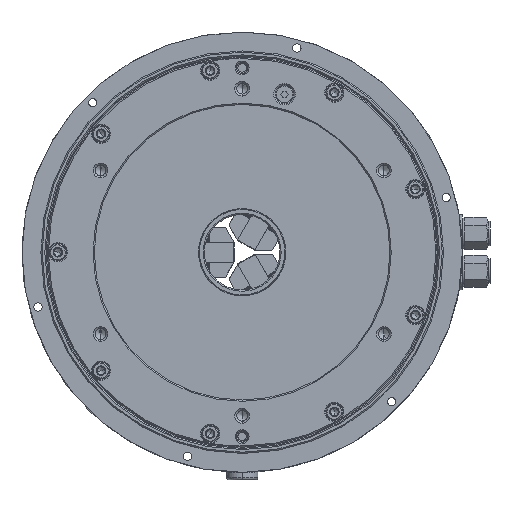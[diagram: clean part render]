
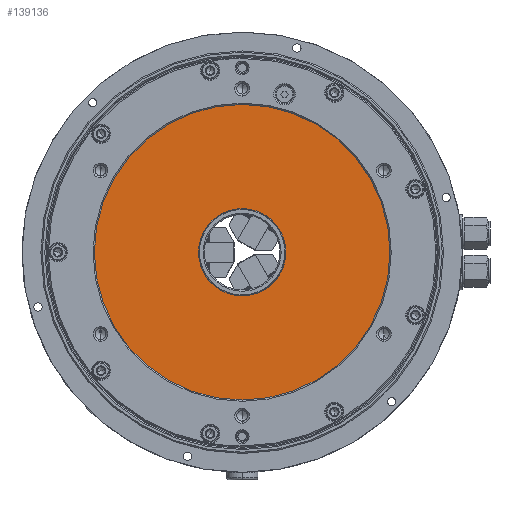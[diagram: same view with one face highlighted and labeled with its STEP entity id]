
A CAD part, left-side view. The second image highlights one B-rep face of the part: STEP entity #139136.
In plain terms, the highlighted planar face has unit normal (-1, 0, 0).
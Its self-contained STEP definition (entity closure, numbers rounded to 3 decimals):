
#7431 = CARTESIAN_POINT ( 'NONE',  ( -6., 34.7, 0. ) ) ;
#8942 = PLANE ( 'NONE',  #26800 ) ;
#9269 = EDGE_CURVE ( 'NONE', #64926, #26792, #78867, .T. ) ;
#14400 = CARTESIAN_POINT ( 'NONE',  ( -6., 0., 0. ) ) ;
#18433 = ORIENTED_EDGE ( 'NONE', *, *, #9269, .T. ) ;
#19340 = CIRCLE ( 'NONE', #53818, 34.7 ) ;
#26792 = VERTEX_POINT ( 'NONE', #140786 ) ;
#26800 = AXIS2_PLACEMENT_3D ( 'NONE', #7431, #54489, #55238 ) ;
#31544 = DIRECTION ( 'NONE',  ( 0., 0., 1. ) ) ;
#39322 = EDGE_CURVE ( 'NONE', #86392, #152537, #108204, .T. ) ;
#40648 = FACE_BOUND ( 'NONE', #107991, .T. ) ;
#46027 = ORIENTED_EDGE ( 'NONE', *, *, #39322, .F. ) ;
#48430 = DIRECTION ( 'NONE',  ( 0., 0., 1. ) ) ;
#49176 = DIRECTION ( 'NONE',  ( -1., 0., 0. ) ) ;
#53818 = AXIS2_PLACEMENT_3D ( 'NONE', #141616, #79871, #116942 ) ;
#54489 = DIRECTION ( 'NONE',  ( 1., 0., 0. ) ) ;
#55238 = DIRECTION ( 'NONE',  ( 0., 0., -1. ) ) ;
#55463 = DIRECTION ( 'NONE',  ( -1., 0., 0. ) ) ;
#58979 = AXIS2_PLACEMENT_3D ( 'NONE', #92478, #55463, #31544 ) ;
#58989 = CIRCLE ( 'NONE', #145276, 117.5 ) ;
#59220 = DIRECTION ( 'NONE',  ( 0., 0., 1. ) ) ;
#64926 = VERTEX_POINT ( 'NONE', #111122 ) ;
#77362 = EDGE_LOOP ( 'NONE', ( #151287, #18433 ) ) ;
#78867 = CIRCLE ( 'NONE', #120898, 117.5 ) ;
#79871 = DIRECTION ( 'NONE',  ( -1., 0., 0. ) ) ;
#81609 = DIRECTION ( 'NONE',  ( -1., 0., 0. ) ) ;
#86392 = VERTEX_POINT ( 'NONE', #121315 ) ;
#87683 = FACE_OUTER_BOUND ( 'NONE', #77362, .T. ) ;
#92478 = CARTESIAN_POINT ( 'NONE',  ( -6., 0., 0. ) ) ;
#92928 = EDGE_CURVE ( 'NONE', #152537, #86392, #19340, .T. ) ;
#107991 = EDGE_LOOP ( 'NONE', ( #46027, #143410 ) ) ;
#108204 = CIRCLE ( 'NONE', #58979, 34.7 ) ;
#111122 = CARTESIAN_POINT ( 'NONE',  ( -6., 0., -117.5 ) ) ;
#116942 = DIRECTION ( 'NONE',  ( 0., 0., 1. ) ) ;
#119600 = CARTESIAN_POINT ( 'NONE',  ( -6., 0., -34.7 ) ) ;
#120898 = AXIS2_PLACEMENT_3D ( 'NONE', #14400, #81609, #59220 ) ;
#121315 = CARTESIAN_POINT ( 'NONE',  ( -6., 0., 34.7 ) ) ;
#131053 = CARTESIAN_POINT ( 'NONE',  ( -6., 0., 0. ) ) ;
#139136 = ADVANCED_FACE ( 'NONE', ( #40648, #87683 ), #8942, .F. ) ;
#140018 = EDGE_CURVE ( 'NONE', #26792, #64926, #58989, .T. ) ;
#140786 = CARTESIAN_POINT ( 'NONE',  ( -6., 0., 117.5 ) ) ;
#141616 = CARTESIAN_POINT ( 'NONE',  ( -6., 0., 0. ) ) ;
#143410 = ORIENTED_EDGE ( 'NONE', *, *, #92928, .F. ) ;
#145276 = AXIS2_PLACEMENT_3D ( 'NONE', #131053, #49176, #48430 ) ;
#151287 = ORIENTED_EDGE ( 'NONE', *, *, #140018, .T. ) ;
#152537 = VERTEX_POINT ( 'NONE', #119600 ) ;
